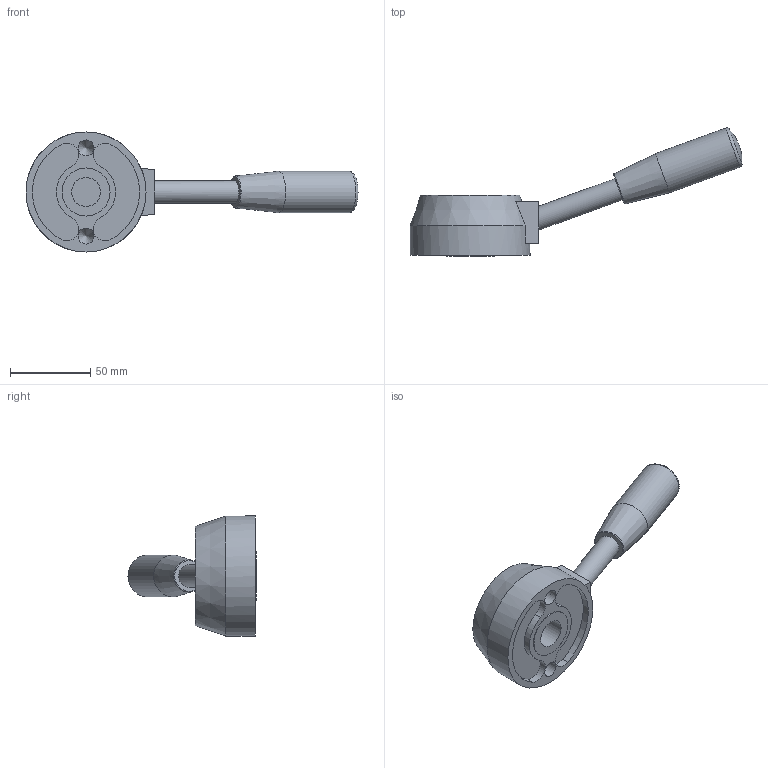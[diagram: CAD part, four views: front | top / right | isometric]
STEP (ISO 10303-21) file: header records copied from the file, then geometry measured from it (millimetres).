
FILE_DESCRIPTION( ( 'STEP AP203' ), '1' );
FILE_NAME( 'C:/Temp/Ganter_Step_05_03_2020/data/2_1/gn_512/gn_512_b/Control lever GN 512-75-B18.stp', '2020-03-05T11:51:38', ( 'License CC BY-ND 4.0' ), ( 'CADENAS' ), ' ', 'PARTsolutions', ' ' );
FILE_SCHEMA( ( 'CONFIG_CONTROL_DESIGN' ) );
Length unit declared in the file: millimetre
Products named in the file (1): _Control lever GN 512-75-B18
Bounding box: 207.44 x 80.09 x 75 mm (x, y, z)
Volume: 182354.1 mm3; surface area: 31055.5 mm2
Topology: 1 solids, 1 shells, 36 faces, 81 edges, 53 vertices
Faces by surface type: cylinder 16, plane 13, cone 4, torus 2, sphere 1
Full cylindrical faces by diameter (mm): 10 x2, 14 x1, 18 x1, 26 x1, 30 x1, 42 x1, 75 x1
Entity records: 930 total; most frequent: DIRECTION 168, CARTESIAN_POINT 149, ORIENTED_EDGE 116, AXIS2_PLACEMENT_3D 75, EDGE_CURVE 58, EDGE_LOOP 57, VERTEX_POINT 48, FACE_OUTER_BOUND 46
